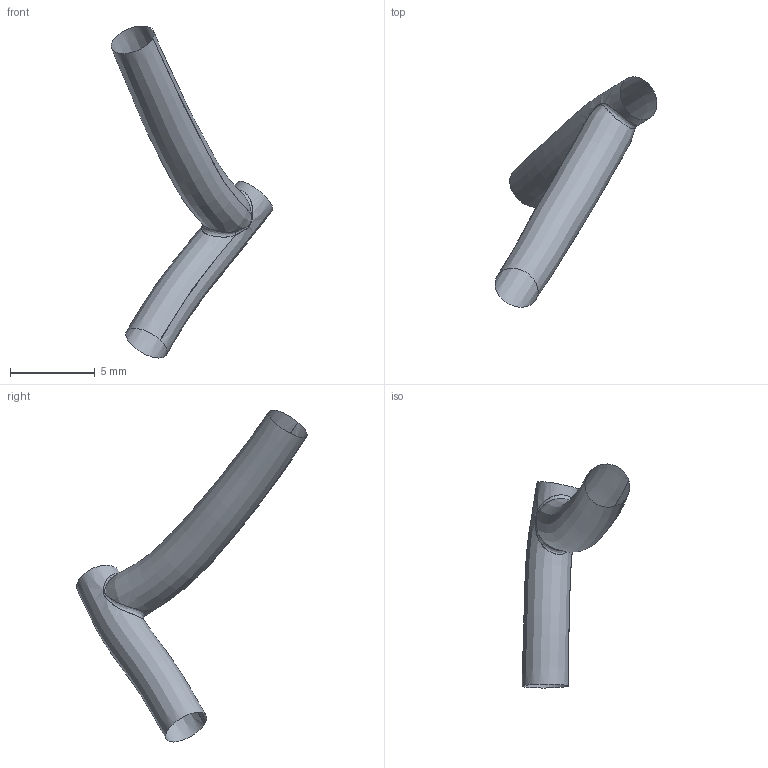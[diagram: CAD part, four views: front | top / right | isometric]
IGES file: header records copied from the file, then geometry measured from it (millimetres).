
Global section: file name: C:\Documents and Settings\Administrator\Desktop\FDA-Pig\Domestic LCA\Pig_000138\lcx.ed.igs; native system: Rhinoceros ( May 19 2006 ); preprocessor: Trout Lake IGES 012 May 19 2006; date: 111205.184642; units: centimetre
Bounding box: 9.57 x 13.65 x 19.65 mm (x, y, z)
Surface area: 234.3 mm2 (no closed solid volume)
Topology: 0 solids, 0 shells, 5 faces, 67 edges, 66 vertices
Faces by surface type: bspline 5
